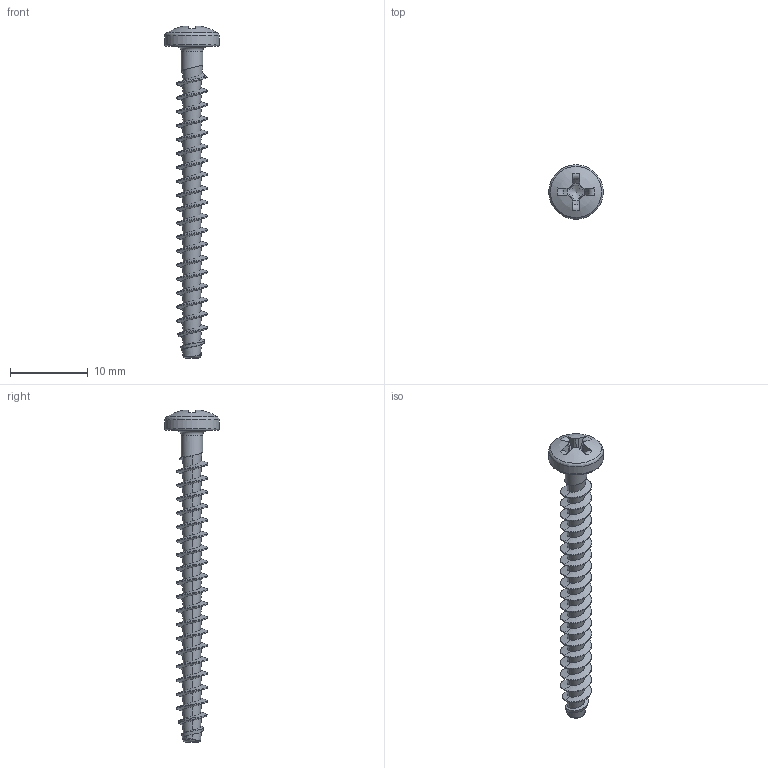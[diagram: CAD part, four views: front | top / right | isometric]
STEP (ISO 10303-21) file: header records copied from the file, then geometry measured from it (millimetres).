
FILE_DESCRIPTION(/* description */ (''),/* implementation_level */ '2;1');
FILE_NAME(/* name */ 'KN1032-Neu-STS-40x40-H2.step',/* time_stamp */ '2018-08-15T15:48:10+02:00',/* author */ (''),/* organization */ (''),/* preprocessor_version */ 'ST-DEVELOPER v16',/* originating_system */ 'SIEMENS PLM Software NX 10.0',/* authorisation */ '');
FILE_SCHEMA (('AUTOMOTIVE_DESIGN { 1 0 10303 214 3 1 1 1 }'));
Length unit declared in the file: millimetre
Products named in the file (1): KN1032-STS-40x40-H2
Bounding box: 7 x 7 x 42.63 mm (x, y, z)
Volume: 300.9 mm3; surface area: 702.8 mm2
Topology: 1 solids, 1 shells, 103 faces, 258 edges, 157 vertices
Faces by surface type: bspline 65, plane 18, torus 8, cone 7, cylinder 4, sphere 1
Full cylindrical faces by diameter (mm): 2.76 x1, 7 x1
Entity records: 7144 total; most frequent: CARTESIAN_POINT 5192, ORIENTED_EDGE 484, EDGE_CURVE 242, DIRECTION 228, VERTEX_POINT 151, B_SPLINE_CURVE_WITH_KNOTS 129, EDGE_LOOP 110, ADVANCED_FACE 102
